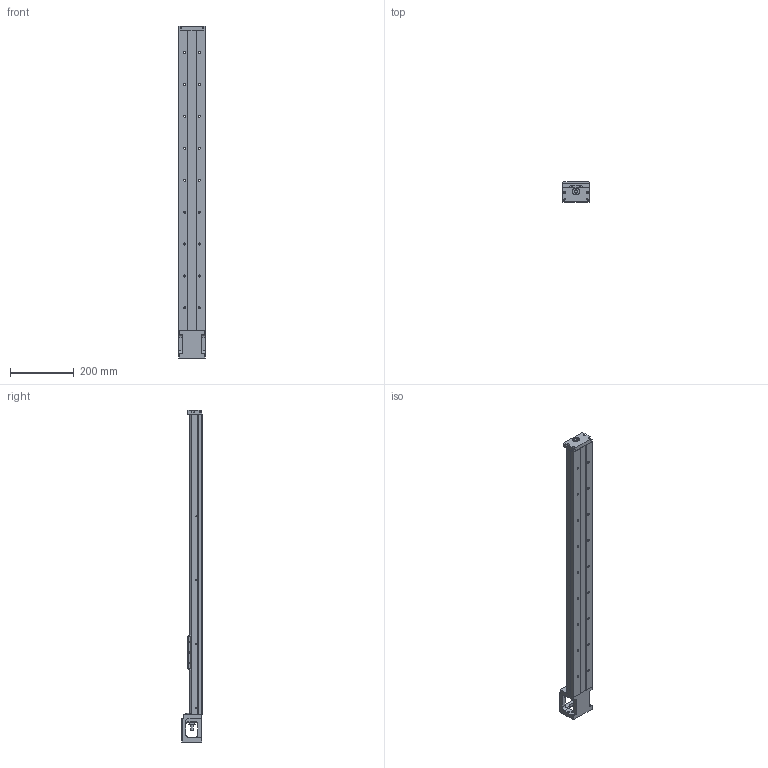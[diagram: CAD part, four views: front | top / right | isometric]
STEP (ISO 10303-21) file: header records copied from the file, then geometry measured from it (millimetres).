
FILE_DESCRIPTION(/* description */ (''),/* implementation_level */ '2;1');
FILE_NAME(/* name */ '46L-940low.stp',/* time_stamp */ '2018-02-12T11:39:07+08:00',/* author */ (''),/* organization */ (''),/* preprocessor_version */ 'ST-DEVELOPER v11',/* originating_system */ 'SIEMENS UGS NX 6.0',/* authorisation */ '');
FILE_SCHEMA (('AUTOMOTIVE_DESIGN { 1 0 10303 214 1 1 1 1 }'));
Length unit declared in the file: millimetre
Products named in the file (1): 3.069
Bounding box: 86 x 64 x 1040 mm (x, y, z)
Volume: 2012723.6 mm3; surface area: 408981 mm2
Topology: 5 solids, 13 shells, 655 faces, 1743 edges, 1140 vertices
Faces by surface type: plane 288, cylinder 245, cone 61, bspline 53, torus 8
Full cylindrical faces by diameter (mm): 2.11 x4, 2.15 x8, 2.42 x8, 3 x6, 3.2 x4, 3.3 x6, 3.4 x4, 4.2 x4, 4.5 x8, 5 x10, 6 x8, 6.35 x2, 6.6 x18, 8 x1, 9.6 x1, 10 x3, 11 x18, 12 x1, 14.95 x2, 15 x1, 16 x2, 22 x3, 27.5 x1, 44 x1, 50 x1
Entity records: 32446 total; most frequent: CARTESIAN_POINT 12965, ORIENTED_EDGE 2978, DIRECTION 2853, EDGE_CURVE 1489, VERTEX_POINT 1064, AXIS2_PLACEMENT_3D 1064, EDGE_LOOP 931, LINE 725
